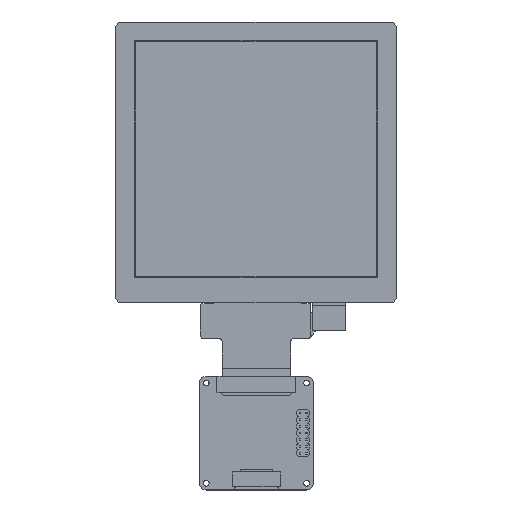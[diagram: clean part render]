
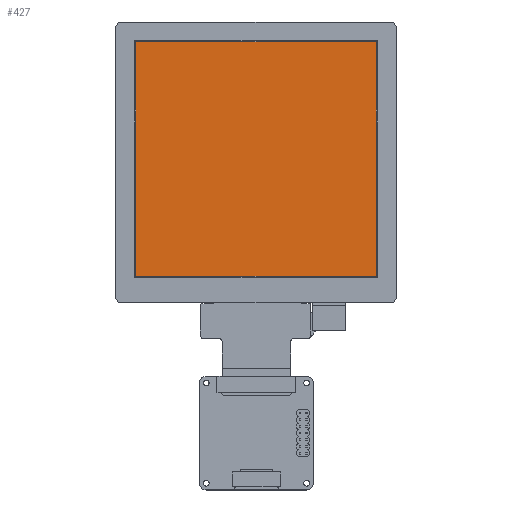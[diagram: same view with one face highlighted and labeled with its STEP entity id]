
A CAD part, top view. The second image highlights one B-rep face of the part: STEP entity #427.
In plain terms, the highlighted planar face has unit normal (0, 0, 1).
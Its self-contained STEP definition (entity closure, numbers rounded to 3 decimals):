
#161=DIRECTION('',(1.,0.,0.));
#162=VECTOR('',#161,71.86);
#163=CARTESIAN_POINT('',(-35.93,36.08,0.7));
#164=LINE('',#163,#162);
#165=DIRECTION('',(0.,1.,0.));
#166=VECTOR('',#165,70.18);
#167=CARTESIAN_POINT('',(-35.93,-34.1,0.7));
#168=LINE('',#167,#166);
#169=DIRECTION('',(-1.,0.,0.));
#170=VECTOR('',#169,71.86);
#171=CARTESIAN_POINT('',(35.93,-34.1,0.7));
#172=LINE('',#171,#170);
#173=DIRECTION('',(0.,-1.,0.));
#174=VECTOR('',#173,70.18);
#175=CARTESIAN_POINT('',(35.93,36.08,0.7));
#176=LINE('',#175,#174);
#217=CARTESIAN_POINT('',(-35.93,36.08,0.7));
#218=CARTESIAN_POINT('',(35.93,36.08,0.7));
#219=VERTEX_POINT('',#217);
#220=VERTEX_POINT('',#218);
#221=CARTESIAN_POINT('',(35.93,-34.1,0.7));
#222=VERTEX_POINT('',#221);
#223=CARTESIAN_POINT('',(-35.93,-34.1,0.7));
#224=VERTEX_POINT('',#223);
#416=CARTESIAN_POINT('',(0.,0.,0.7));
#417=DIRECTION('',(0.,0.,1.));
#418=DIRECTION('',(1.,0.,0.));
#419=AXIS2_PLACEMENT_3D('',#416,#417,#418);
#420=PLANE('',#419);
#421=ORIENTED_EDGE('',*,*,#405,.T.);
#422=ORIENTED_EDGE('',*,*,#411,.T.);
#423=ORIENTED_EDGE('',*,*,#409,.T.);
#424=ORIENTED_EDGE('',*,*,#407,.T.);
#425=EDGE_LOOP('',(#421,#422,#423,#424));
#426=FACE_OUTER_BOUND('',#425,.F.);
#405=EDGE_CURVE('',#219,#220,#164,.T.);
#407=EDGE_CURVE('',#224,#219,#168,.T.);
#409=EDGE_CURVE('',#222,#224,#172,.T.);
#411=EDGE_CURVE('',#220,#222,#176,.T.);
#427=ADVANCED_FACE('',(#426),#420,.T.);
